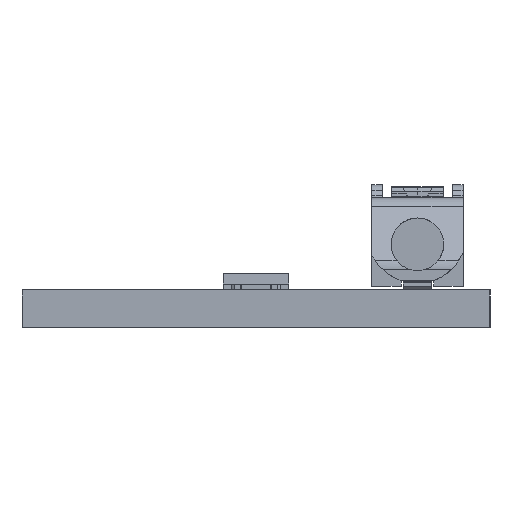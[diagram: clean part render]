
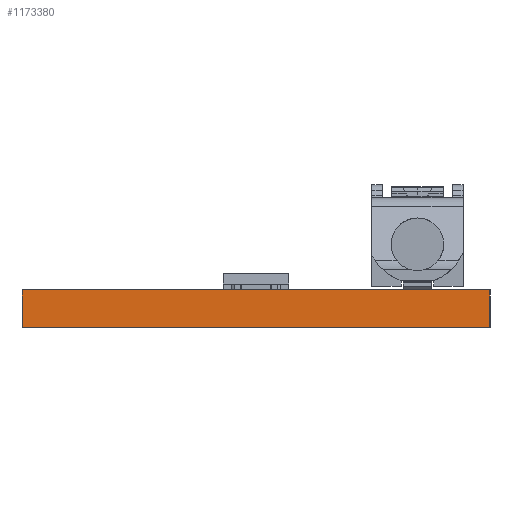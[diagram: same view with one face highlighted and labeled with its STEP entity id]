
A CAD part, left-side view. The second image highlights one B-rep face of the part: STEP entity #1173380.
In plain terms, the highlighted planar face has unit normal (-1, 0, 0).
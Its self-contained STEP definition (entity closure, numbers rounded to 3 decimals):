
#1154130=CARTESIAN_POINT('',(0.,0.,0.));
#1154140=DIRECTION('',(0.,1.,0.));
#1154150=VECTOR('',#1154140,0.039);
#1154160=LINE('',#1154130,#1154150);
#1154170=CARTESIAN_POINT('',(0.,0.,0.));
#1154180=VERTEX_POINT('',#1154170);
#1154190=CARTESIAN_POINT('',(0.,20.,0.));
#1154200=VERTEX_POINT('',#1154190);
#1154210=EDGE_CURVE('',#1154180,#1154200,#1154160,.T.);
#1160520=CARTESIAN_POINT('',(0.,0.,-1.6));
#1160530=VERTEX_POINT('',#1160520);
#1162660=CARTESIAN_POINT('',(0.,20.,-1.6));
#1162670=VERTEX_POINT('',#1162660);
#1162700=CARTESIAN_POINT('',(0.,0.,-1.6));
#1162710=DIRECTION('',(0.,1.,0.));
#1162720=VECTOR('',#1162710,0.039);
#1162730=LINE('',#1162700,#1162720);
#1162740=EDGE_CURVE('',#1160530,#1162670,#1162730,.T.);
#1166870=CARTESIAN_POINT('',(0.,0.,0.));
#1166880=DIRECTION('',(0.,0.,-1.));
#1166890=VECTOR('',#1166880,1.);
#1166900=LINE('',#1166870,#1166890);
#1166910=EDGE_CURVE('',#1154180,#1160530,#1166900,.T.);
#1173090=CARTESIAN_POINT('',(0.,20.,0.));
#1173100=DIRECTION('',(0.,0.,-1.));
#1173110=VECTOR('',#1173100,1.);
#1173120=LINE('',#1173090,#1173110);
#1173130=EDGE_CURVE('',#1154200,#1162670,#1173120,.T.);
#1173270=CARTESIAN_POINT('',(0.,0.,0.));
#1173280=DIRECTION('',(1.,0.,0.));
#1173290=DIRECTION('',(0.,-1.,0.));
#1173300=AXIS2_PLACEMENT_3D('',#1173270,#1173280,#1173290);
#1173310=PLANE('',#1173300);
#1173320=ORIENTED_EDGE('',*,*,#1154210,.T.);
#1173330=ORIENTED_EDGE('',*,*,#1166910,.F.);
#1173340=ORIENTED_EDGE('',*,*,#1162740,.F.);
#1173350=ORIENTED_EDGE('',*,*,#1173130,.T.);
#1173360=EDGE_LOOP('',(#1173350,#1173340,#1173330,#1173320));
#1173370=FACE_OUTER_BOUND('',#1173360,.T.);
#1173380=ADVANCED_FACE('',(#1173370),#1173310,.F.);
